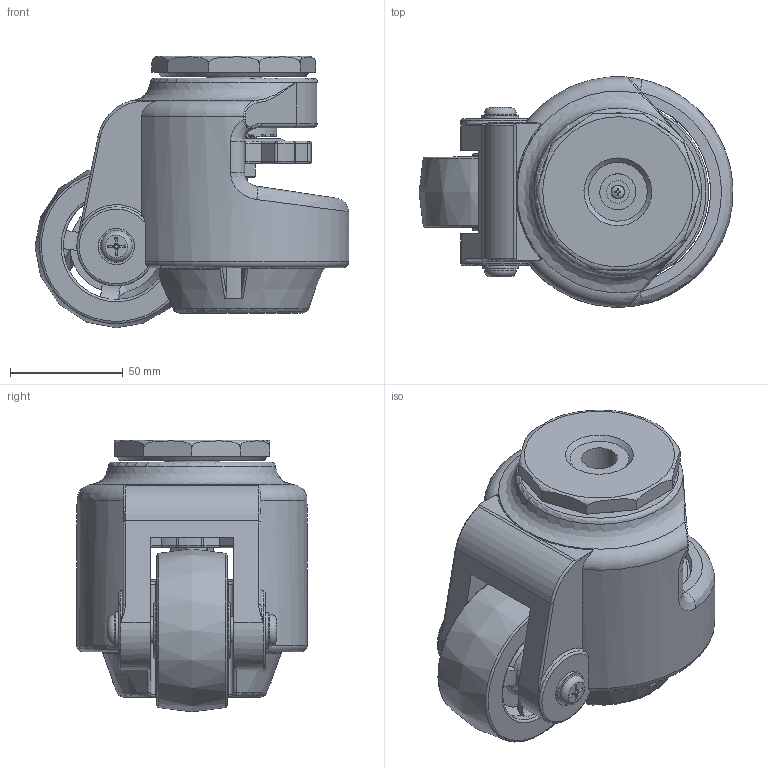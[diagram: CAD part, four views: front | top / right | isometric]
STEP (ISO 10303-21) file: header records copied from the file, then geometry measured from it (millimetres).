
FILE_DESCRIPTION((''),'2;1');
FILE_NAME('E:\UPS\Accessories\wheels\AC-1000S\AC-1000S.stp','2012-07-10T12:10:53',('h029'),(''),'Autodesk Inventor 11','Autodesk Inventor 11','');
FILE_SCHEMA(('AUTOMOTIVE_DESIGN { 1 0 10303 214 1 1 1 1 }'));
Length unit declared in the file: millimetre
Products named in the file (4): AC-1000S; AC-1000S_1; AC-1000S_2; AC-1000S_3
Assembly tree (3 placements, depth 2):
  AC-1000S
    AC-1000S_1
    AC-1000S_2
    AC-1000S_3
Bounding box: 138.96 x 102 x 120.2 mm (x, y, z)
Volume: 624150.4 mm3; surface area: 132645.4 mm2
Topology: 5 solids, 42 shells, 736 faces, 1832 edges, 1055 vertices
Faces by surface type: plane 253, cylinder 219, bspline 102, sphere 76, torus 70, cone 16
Full cylindrical faces by diameter (mm): 2.75 x1, 3 x2, 6.647 x1, 8 x1, 9 x1, 10 x2, 12 x2, 12.2 x1, 13 x2, 14 x2, 16 x2, 16.5 x1, 20 x2, 21 x1, 24.5 x1, 25 x3, 30 x1, 38 x1, 40 x1, 40.14 x1, 41.34 x1, 41.5 x1, 47 x2
Entity records: 26823 total; most frequent: CARTESIAN_POINT 9917, DIRECTION 3688, ORIENTED_EDGE 3408, EDGE_CURVE 1704, AXIS2_PLACEMENT_3D 1514, VERTEX_POINT 1036, EDGE_LOOP 847, CIRCLE 836
